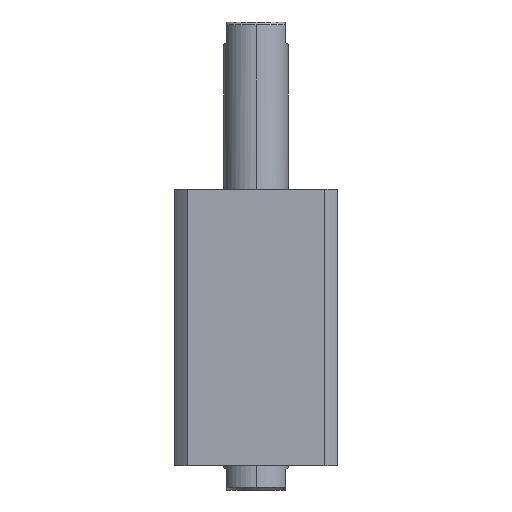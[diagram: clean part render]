
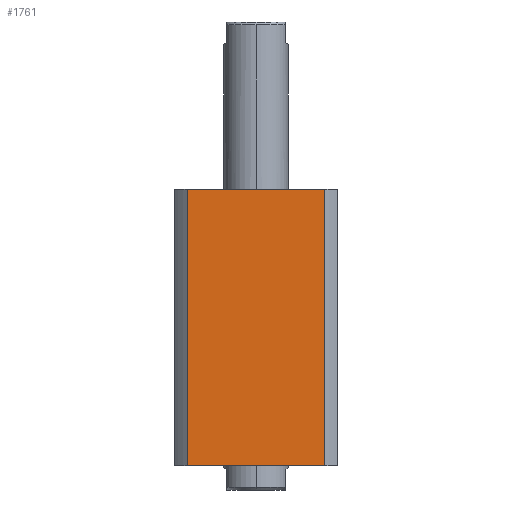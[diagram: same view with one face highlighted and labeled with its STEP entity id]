
A CAD part, front view. The second image highlights one B-rep face of the part: STEP entity #1761.
In plain terms, the highlighted planar face has unit normal (0, -1, 0) as drawn and (1, 0, 0) by its records, which use the part's own axes.
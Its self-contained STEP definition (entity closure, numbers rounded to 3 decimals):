
#1067 = CARTESIAN_POINT ( 'NONE',  ( 57., 47.971, 0. ) ) ;
#1311 = LINE ( 'NONE', #4612, #9865 ) ;
#1761 = ADVANCED_FACE ( 'NONE', ( #4564 ), #2327, .F. ) ;
#1853 = ORIENTED_EDGE ( 'NONE', *, *, #14013, .T. ) ;
#2327 = PLANE ( 'NONE',  #14568 ) ;
#2663 = CARTESIAN_POINT ( 'NONE',  ( 57., 47.971, -107. ) ) ;
#2914 = EDGE_CURVE ( 'NONE', #10416, #10081, #8167, .T. ) ;
#3546 = DIRECTION ( 'NONE',  ( 0., -1., 0. ) ) ;
#3636 = ORIENTED_EDGE ( 'NONE', *, *, #5170, .F. ) ;
#4337 = CARTESIAN_POINT ( 'NONE',  ( 57., -47.971, 193. ) ) ;
#4349 = LINE ( 'NONE', #14655, #5109 ) ;
#4564 = FACE_OUTER_BOUND ( 'NONE', #8109, .T. ) ;
#4612 = CARTESIAN_POINT ( 'NONE',  ( 57., 57., 0. ) ) ;
#4711 = CARTESIAN_POINT ( 'NONE',  ( 57., -47.971, -107. ) ) ;
#5109 = VECTOR ( 'NONE', #14549, 1000. ) ;
#5170 = EDGE_CURVE ( 'NONE', #10773, #12946, #12476, .T. ) ;
#5877 = ORIENTED_EDGE ( 'NONE', *, *, #2914, .F. ) ;
#6349 = EDGE_CURVE ( 'NONE', #10081, #10773, #4349, .T. ) ;
#7771 = VECTOR ( 'NONE', #11980, 1000. ) ;
#8109 = EDGE_LOOP ( 'NONE', ( #5877, #1853, #3636, #12700 ) ) ;
#8167 = LINE ( 'NONE', #4711, #7771 ) ;
#9417 = CARTESIAN_POINT ( 'NONE',  ( 57., 57., 193. ) ) ;
#9865 = VECTOR ( 'NONE', #11874, 1000. ) ;
#10081 = VERTEX_POINT ( 'NONE', #4337 ) ;
#10341 = CARTESIAN_POINT ( 'NONE',  ( 57., -47.971, 0. ) ) ;
#10416 = VERTEX_POINT ( 'NONE', #10341 ) ;
#10722 = CARTESIAN_POINT ( 'NONE',  ( 57., 47.971, 193. ) ) ;
#10773 = VERTEX_POINT ( 'NONE', #10722 ) ;
#10816 = DIRECTION ( 'NONE',  ( -1., 0., 0. ) ) ;
#11735 = VECTOR ( 'NONE', #12392, 1000. ) ;
#11874 = DIRECTION ( 'NONE',  ( 0., 1., 0. ) ) ;
#11980 = DIRECTION ( 'NONE',  ( 0., 0., 1. ) ) ;
#12392 = DIRECTION ( 'NONE',  ( 0., 0., -1. ) ) ;
#12476 = LINE ( 'NONE', #2663, #11735 ) ;
#12700 = ORIENTED_EDGE ( 'NONE', *, *, #6349, .F. ) ;
#12946 = VERTEX_POINT ( 'NONE', #1067 ) ;
#14013 = EDGE_CURVE ( 'NONE', #10416, #12946, #1311, .T. ) ;
#14549 = DIRECTION ( 'NONE',  ( 0., 1., 0. ) ) ;
#14568 = AXIS2_PLACEMENT_3D ( 'NONE', #9417, #10816, #3546 ) ;
#14655 = CARTESIAN_POINT ( 'NONE',  ( 57., 57., 193. ) ) ;
